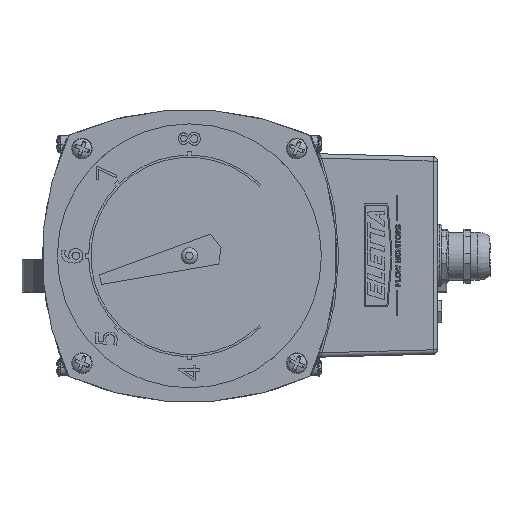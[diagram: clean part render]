
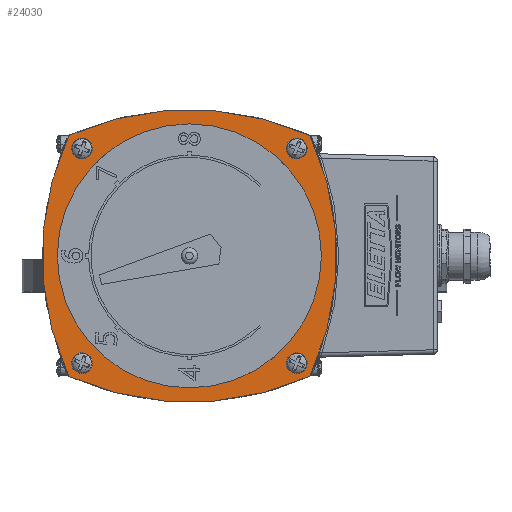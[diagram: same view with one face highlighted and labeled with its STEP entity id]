
A CAD part, left-side view. The second image highlights one B-rep face of the part: STEP entity #24030.
In plain terms, the highlighted planar face has unit normal (-1, 0, 0).
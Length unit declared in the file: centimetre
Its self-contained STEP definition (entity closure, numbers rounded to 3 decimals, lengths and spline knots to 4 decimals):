
#6854=PLANE('',#25843);
#7912=VERTEX_POINT('',#45724);
#7914=VERTEX_POINT('',#45729);
#7916=VERTEX_POINT('',#45734);
#7918=VERTEX_POINT('',#45739);
#7925=VERTEX_POINT('',#45755);
#7926=VERTEX_POINT('',#45756);
#7927=VERTEX_POINT('',#45758);
#7928=VERTEX_POINT('',#45760);
#7929=VERTEX_POINT('',#45763);
#9804=CIRCLE('',#25826,0.3);
#9806=CIRCLE('',#25829,0.3);
#9808=CIRCLE('',#25832,0.3);
#9810=CIRCLE('',#25835,0.3);
#9817=CIRCLE('',#25844,13.5);
#9818=CIRCLE('',#25845,13.);
#9819=CIRCLE('',#25846,13.5);
#9820=CIRCLE('',#25847,13.);
#9821=CIRCLE('',#25848,6.025);
#11284=EDGE_CURVE('',#7912,#7912,#9804,.T.);
#11286=EDGE_CURVE('',#7914,#7914,#9806,.T.);
#11288=EDGE_CURVE('',#7916,#7916,#9808,.T.);
#11290=EDGE_CURVE('',#7918,#7918,#9810,.T.);
#11297=EDGE_CURVE('',#7925,#7926,#9817,.T.);
#11298=EDGE_CURVE('',#7927,#7925,#9818,.T.);
#11299=EDGE_CURVE('',#7928,#7927,#9819,.T.);
#11300=EDGE_CURVE('',#7926,#7928,#9820,.T.);
#11301=EDGE_CURVE('',#7929,#7929,#9821,.T.);
#15592=ORIENTED_EDGE('',*,*,#11297,.F.);
#15593=ORIENTED_EDGE('',*,*,#11298,.F.);
#15594=ORIENTED_EDGE('',*,*,#11299,.F.);
#15595=ORIENTED_EDGE('',*,*,#11300,.F.);
#15596=ORIENTED_EDGE('',*,*,#11301,.T.);
#15597=ORIENTED_EDGE('',*,*,#11290,.T.);
#15598=ORIENTED_EDGE('',*,*,#11288,.T.);
#15599=ORIENTED_EDGE('',*,*,#11286,.T.);
#15600=ORIENTED_EDGE('',*,*,#11284,.T.);
#20631=EDGE_LOOP('',(#15592,#15593,#15594,#15595));
#20632=EDGE_LOOP('',(#15596));
#20633=EDGE_LOOP('',(#15597));
#20634=EDGE_LOOP('',(#15598));
#20635=EDGE_LOOP('',(#15599));
#20636=EDGE_LOOP('',(#15600));
#22418=FACE_BOUND('',#20631,.T.);
#22419=FACE_BOUND('',#20632,.T.);
#22420=FACE_BOUND('',#20633,.T.);
#22421=FACE_BOUND('',#20634,.T.);
#22422=FACE_BOUND('',#20635,.T.);
#22423=FACE_BOUND('',#20636,.T.);
#24030=ADVANCED_FACE('',(#22418,#22419,#22420,#22421,#22422,#22423),#6854,
 .F.);
#25826=AXIS2_PLACEMENT_3D('',#45723,#28856,#28857);
#25829=AXIS2_PLACEMENT_3D('',#45728,#28862,#28863);
#25832=AXIS2_PLACEMENT_3D('',#45733,#28868,#28869);
#25835=AXIS2_PLACEMENT_3D('',#45738,#28874,#28875);
#25843=AXIS2_PLACEMENT_3D('',#45753,#28889,$);
#25844=AXIS2_PLACEMENT_3D('',#45754,#28890,#28891);
#25845=AXIS2_PLACEMENT_3D('',#45757,#28892,#28893);
#25846=AXIS2_PLACEMENT_3D('',#45759,#28894,#28895);
#25847=AXIS2_PLACEMENT_3D('',#45761,#28896,#28897);
#25848=AXIS2_PLACEMENT_3D('',#45762,#28898,#28899);
#28856=DIRECTION('',(1.,0.,0.));
#28857=DIRECTION('',(0.,0.,-0.3));
#28862=DIRECTION('',(1.,0.,0.));
#28863=DIRECTION('',(0.,0.,-0.3));
#28868=DIRECTION('',(1.,0.,0.));
#28869=DIRECTION('',(0.,0.,-0.3));
#28874=DIRECTION('',(1.,0.,0.));
#28875=DIRECTION('',(0.,0.,-0.3));
#28889=DIRECTION('',(1.,0.,0.));
#28890=DIRECTION('',(1.,0.,0.));
#28891=DIRECTION('',(0.,0.,-13.5));
#28892=DIRECTION('',(1.,0.,0.));
#28893=DIRECTION('',(0.,0.,-13.));
#28894=DIRECTION('',(1.,0.,0.));
#28895=DIRECTION('',(0.,0.,-13.5));
#28896=DIRECTION('',(1.,0.,0.));
#28897=DIRECTION('',(0.,0.,-13.));
#28898=DIRECTION('',(1.,0.,0.));
#28899=DIRECTION('',(0.,0.,-6.025));
#45723=CARTESIAN_POINT('',(7.581,5.8362,-1.9032));
#45724=CARTESIAN_POINT('',(7.581,5.8362,-1.6032));
#45728=CARTESIAN_POINT('',(7.581,-3.9638,7.8968));
#45729=CARTESIAN_POINT('',(7.581,-3.9638,8.1968));
#45733=CARTESIAN_POINT('',(7.581,-3.9638,-1.9032));
#45734=CARTESIAN_POINT('',(7.581,-3.9638,-1.6032));
#45738=CARTESIAN_POINT('',(7.581,5.8362,7.8968));
#45739=CARTESIAN_POINT('',(7.581,5.8362,8.1968));
#45753=CARTESIAN_POINT('',(7.581,0.9362,2.9968));
#45754=CARTESIAN_POINT('',(7.581,0.9362,-3.832));
#45755=CARTESIAN_POINT('',(7.581,6.4362,8.4968));
#45756=CARTESIAN_POINT('',(7.581,-4.5638,8.4968));
#45757=CARTESIAN_POINT('',(7.581,-5.343,2.9968));
#45758=CARTESIAN_POINT('',(7.581,6.4362,-2.5032));
#45759=CARTESIAN_POINT('',(7.581,0.9362,9.8257));
#45760=CARTESIAN_POINT('',(7.581,-4.5638,-2.5032));
#45761=CARTESIAN_POINT('',(7.581,7.2154,2.9968));
#45762=CARTESIAN_POINT('',(7.581,0.9362,2.9968));
#45763=CARTESIAN_POINT('',(7.581,0.9362,-3.0282));
